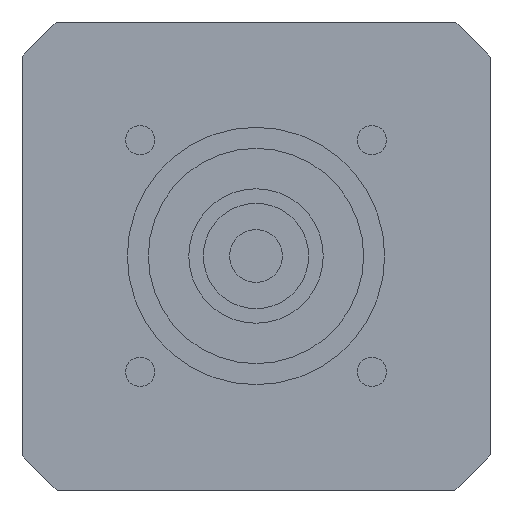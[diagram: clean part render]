
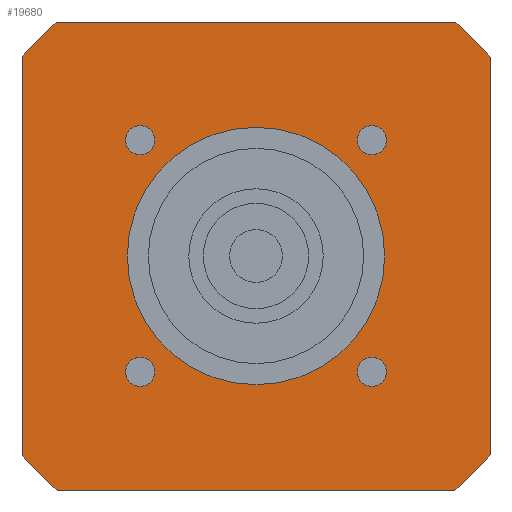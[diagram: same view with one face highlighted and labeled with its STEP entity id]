
A CAD part, left-side view. The second image highlights one B-rep face of the part: STEP entity #19680.
In plain terms, the highlighted planar face has unit normal (-1, 0, 0) as drawn and (0, 0, -1) by its records, which use the part's own axes.
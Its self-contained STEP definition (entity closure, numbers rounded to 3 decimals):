
#13850=CARTESIAN_POINT('',(40.,-34.004,-44.));
#13860=VERTEX_POINT('',#13850);
#13890=CARTESIAN_POINT('',(0.,0.,
-44.));
#13900=DIRECTION('',(0.,0.,1.));
#13910=DIRECTION('',(1.,0.,0.));
#13920=AXIS2_PLACEMENT_3D('',#13890,#13900,#13910);
#13930=CIRCLE('',#13920,52.5);
#13940=CARTESIAN_POINT('',(34.004,-40.,-44.));
#13950=VERTEX_POINT('',#13940);
#13960=EDGE_CURVE('',#13950,#13860,#13930,.T.);
#17950=CARTESIAN_POINT('',(40.,34.004,-44.));
#17960=VERTEX_POINT('',#17950);
#18040=CARTESIAN_POINT('',(34.004,40.,-44.));
#18050=VERTEX_POINT('',#18040);
#18080=CARTESIAN_POINT('',(0.,0.,
-44.));
#18090=DIRECTION('',(0.,0.,1.));
#18100=DIRECTION('',(1.,0.,0.));
#18110=AXIS2_PLACEMENT_3D('',#18080,#18090,#18100);
#18120=CIRCLE('',#18110,52.5);
#18130=EDGE_CURVE('',#17960,#18050,#18120,.T.);
#18180=CARTESIAN_POINT('',(40.,40.,-44.));
#18190=DIRECTION('',(0.,0.,1.));
#18200=DIRECTION('',(0.,1.,0.));
#18210=AXIS2_PLACEMENT_3D('',#18180,#18190,#18200);
#18220=PLANE('',#18210);
#18230=CARTESIAN_POINT('',(0.,0.,
-44.));
#18240=DIRECTION('',(0.,0.,1.));
#18250=DIRECTION('',(1.,0.,0.));
#18260=AXIS2_PLACEMENT_3D('',#18230,#18240,#18250);
#18270=CIRCLE('',#18260,52.5);
#18280=CARTESIAN_POINT('',(-34.004,40.,-44.));
#18290=VERTEX_POINT('',#18280);
#18300=CARTESIAN_POINT('',(-40.,34.004,-44.));
#18310=VERTEX_POINT('',#18300);
#18320=EDGE_CURVE('',#18290,#18310,#18270,.T.);
#18330=ORIENTED_EDGE('',*,*,#18320,.F.);
#18340=CARTESIAN_POINT('',(-40.,40.,-44.));
#18350=DIRECTION('',(0.,-1.,0.));
#18360=VECTOR('',#18350,1000.);
#18370=LINE('',#18340,#18360);
#18380=CARTESIAN_POINT('',(-40.,-34.004,-44.));
#18390=VERTEX_POINT('',#18380);
#18400=EDGE_CURVE('',#18310,#18390,#18370,.T.);
#18410=ORIENTED_EDGE('',*,*,#18400,.F.);
#18420=CARTESIAN_POINT('',(0.,0.,
-44.));
#18430=DIRECTION('',(0.,0.,1.));
#18440=DIRECTION('',(1.,0.,0.));
#18450=AXIS2_PLACEMENT_3D('',#18420,#18430,#18440);
#18460=CIRCLE('',#18450,52.5);
#18470=CARTESIAN_POINT('',(-34.004,-40.,-44.));
#18480=VERTEX_POINT('',#18470);
#18490=EDGE_CURVE('',#18390,#18480,#18460,.T.);
#18500=ORIENTED_EDGE('',*,*,#18490,.F.);
#18510=CARTESIAN_POINT('',(-40.,-40.,-44.));
#18520=DIRECTION('',(1.,0.,0.));
#18530=VECTOR('',#18520,1000.);
#18540=LINE('',#18510,#18530);
#18550=EDGE_CURVE('',#18480,#13950,#18540,.T.);
#18560=ORIENTED_EDGE('',*,*,#18550,.F.);
#18570=ORIENTED_EDGE('',*,*,#13960,.F.);
#18580=CARTESIAN_POINT('',(40.,-40.,-44.));
#18590=DIRECTION('',(0.,1.,0.));
#18600=VECTOR('',#18590,1000.);
#18610=LINE('',#18580,#18600);
#18620=EDGE_CURVE('',#13860,#17960,#18610,.T.);
#18630=ORIENTED_EDGE('',*,*,#18620,.F.);
#18640=ORIENTED_EDGE('',*,*,#18130,.F.);
#18650=CARTESIAN_POINT('',(40.,40.,-44.));
#18660=DIRECTION('',(-1.,0.,0.));
#18670=VECTOR('',#18660,1000.);
#18680=LINE('',#18650,#18670);
#18690=EDGE_CURVE('',#18050,#18290,#18680,.T.);
#18700=ORIENTED_EDGE('',*,*,#18690,.F.);
#18710=EDGE_LOOP('',(#18700,#18640,#18630,#18570,#18560,#18500,#18410,
#18330));
#18720=FACE_OUTER_BOUND('',#18710,.T.);
#18730=CARTESIAN_POINT('',(-19.799,19.799,-44.));
#18740=DIRECTION('',(0.,0.,-1.));
#18750=DIRECTION('',(1.,0.,0.));
#18760=AXIS2_PLACEMENT_3D('',#18730,#18740,#18750);
#18770=CIRCLE('',#18760,2.5);
#18780=CARTESIAN_POINT('',(-17.299,19.799,-44.));
#18790=VERTEX_POINT('',#18780);
#18800=CARTESIAN_POINT('',(-19.799,17.299,-44.));
#18810=VERTEX_POINT('',#18800);
#18820=EDGE_CURVE('',#18790,#18810,#18770,.T.);
#18830=ORIENTED_EDGE('',*,*,#18820,.F.);
#18840=CARTESIAN_POINT('',(-19.799,22.299,-44.));
#18850=VERTEX_POINT('',#18840);
#18860=EDGE_CURVE('',#18810,#18850,#18770,.T.);
#18870=ORIENTED_EDGE('',*,*,#18860,.F.);
#18880=EDGE_CURVE('',#18850,#18790,#18770,.T.);
#18890=ORIENTED_EDGE('',*,*,#18880,.F.);
#18900=EDGE_LOOP('',(#18890,#18870,#18830));
#18910=FACE_BOUND('',#18900,.T.);
#18920=CARTESIAN_POINT('',(19.799,19.799,-44.));
#18930=DIRECTION('',(0.,0.,-1.));
#18940=DIRECTION('',(1.,0.,0.));
#18950=AXIS2_PLACEMENT_3D('',#18920,#18930,#18940);
#18960=CIRCLE('',#18950,2.5);
#18970=CARTESIAN_POINT('',(22.299,19.799,-44.));
#18980=VERTEX_POINT('',#18970);
#18990=CARTESIAN_POINT('',(19.799,17.299,-44.));
#19000=VERTEX_POINT('',#18990);
#19010=EDGE_CURVE('',#18980,#19000,#18960,.T.);
#19020=ORIENTED_EDGE('',*,*,#19010,.F.);
#19030=CARTESIAN_POINT('',(19.799,22.299,-44.));
#19040=VERTEX_POINT('',#19030);
#19050=EDGE_CURVE('',#19000,#19040,#18960,.T.);
#19060=ORIENTED_EDGE('',*,*,#19050,.F.);
#19070=EDGE_CURVE('',#19040,#18980,#18960,.T.);
#19080=ORIENTED_EDGE('',*,*,#19070,.F.);
#19090=EDGE_LOOP('',(#19080,#19060,#19020));
#19100=FACE_BOUND('',#19090,.T.);
#19110=CARTESIAN_POINT('',(19.799,-19.799,-44.));
#19120=DIRECTION('',(0.,0.,-1.));
#19130=DIRECTION('',(1.,0.,0.));
#19140=AXIS2_PLACEMENT_3D('',#19110,#19120,#19130);
#19150=CIRCLE('',#19140,2.5);
#19160=CARTESIAN_POINT('',(22.299,-19.799,-44.));
#19170=VERTEX_POINT('',#19160);
#19180=CARTESIAN_POINT('',(19.799,-22.299,-44.));
#19190=VERTEX_POINT('',#19180);
#19200=EDGE_CURVE('',#19170,#19190,#19150,.T.);
#19210=ORIENTED_EDGE('',*,*,#19200,.F.);
#19220=CARTESIAN_POINT('',(19.799,-17.299,-44.));
#19230=VERTEX_POINT('',#19220);
#19240=EDGE_CURVE('',#19190,#19230,#19150,.T.);
#19250=ORIENTED_EDGE('',*,*,#19240,.F.);
#19260=EDGE_CURVE('',#19230,#19170,#19150,.T.);
#19270=ORIENTED_EDGE('',*,*,#19260,.F.);
#19280=EDGE_LOOP('',(#19270,#19250,#19210));
#19290=FACE_BOUND('',#19280,.T.);
#19300=CARTESIAN_POINT('',(-19.799,-19.799,-44.));
#19310=DIRECTION('',(0.,0.,-1.));
#19320=DIRECTION('',(1.,0.,0.));
#19330=AXIS2_PLACEMENT_3D('',#19300,#19310,#19320);
#19340=CIRCLE('',#19330,2.5);
#19350=CARTESIAN_POINT('',(-17.299,-19.799,-44.));
#19360=VERTEX_POINT('',#19350);
#19370=CARTESIAN_POINT('',(-19.799,-22.299,-44.));
#19380=VERTEX_POINT('',#19370);
#19390=EDGE_CURVE('',#19360,#19380,#19340,.T.);
#19400=ORIENTED_EDGE('',*,*,#19390,.F.);
#19410=CARTESIAN_POINT('',(-19.799,-17.299,-44.));
#19420=VERTEX_POINT('',#19410);
#19430=EDGE_CURVE('',#19380,#19420,#19340,.T.);
#19440=ORIENTED_EDGE('',*,*,#19430,.F.);
#19450=EDGE_CURVE('',#19420,#19360,#19340,.T.);
#19460=ORIENTED_EDGE('',*,*,#19450,.F.);
#19470=EDGE_LOOP('',(#19460,#19440,#19400));
#19480=FACE_BOUND('',#19470,.T.);
#19490=CARTESIAN_POINT('',(0.,0.,
-44.));
#19500=DIRECTION('',(0.,0.,1.));
#19510=DIRECTION('',(1.,0.,0.));
#19520=AXIS2_PLACEMENT_3D('',#19490,#19500,#19510);
#19530=CIRCLE('',#19520,22.);
#19540=CARTESIAN_POINT('',(0.,22.,-44.));
#19550=VERTEX_POINT('',#19540);
#19560=CARTESIAN_POINT('',(0.,-22.,-44.));
#19570=VERTEX_POINT('',#19560);
#19580=EDGE_CURVE('',#19550,#19570,#19530,.T.);
#19590=ORIENTED_EDGE('',*,*,#19580,.T.);
#19600=CARTESIAN_POINT('',(22.,0.,-44.));
#19610=VERTEX_POINT('',#19600);
#19620=EDGE_CURVE('',#19610,#19550,#19530,.T.);
#19630=ORIENTED_EDGE('',*,*,#19620,.T.);
#19640=EDGE_CURVE('',#19570,#19610,#19530,.T.);
#19650=ORIENTED_EDGE('',*,*,#19640,.T.);
#19660=EDGE_LOOP('',(#19650,#19630,#19590));
#19670=FACE_BOUND('',#19660,.T.);
#19680=ADVANCED_FACE('',(#18720,#18910,#19100,#19290,#19480,#19670),
#18220,.F.);
